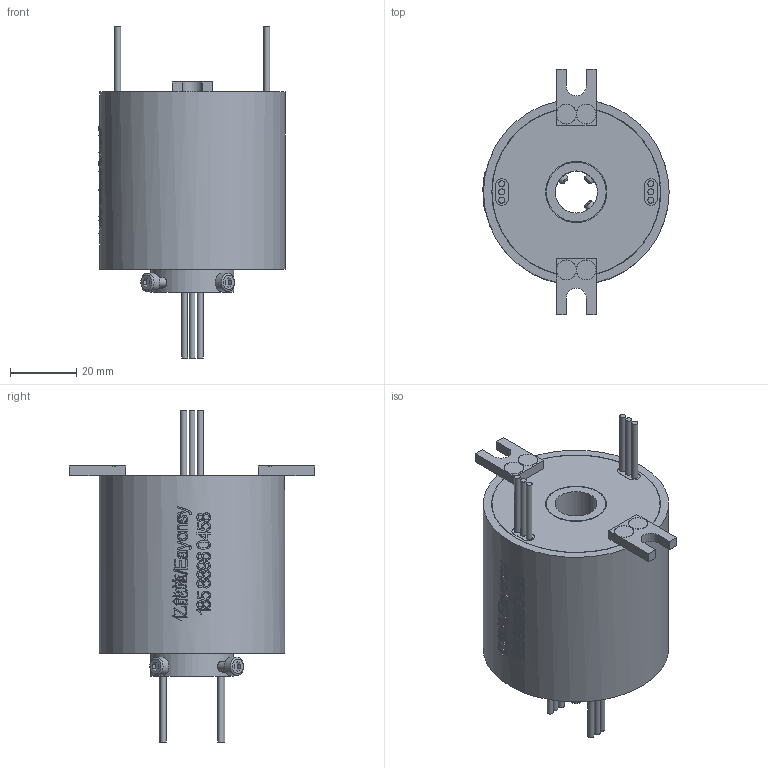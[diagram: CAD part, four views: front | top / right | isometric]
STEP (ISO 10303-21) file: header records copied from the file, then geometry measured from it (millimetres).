
FILE_DESCRIPTION(/* description */ (''),/* implementation_level */ '2;1');
FILE_NAME(/* name */ 'YDF1256-0610-3D模型.stp',/* time_stamp */ '2025-09-11T17:03:41+08:00',/* author */ (''),/* organization */ (''),/* preprocessor_version */ 'ST-DEVELOPER v16.7',/* originating_system */ 'SIEMENS PLM Software NX 12.0',/* authorisation */ '');
FILE_SCHEMA (('AUTOMOTIVE_DESIGN { 1 0 10303 214 3 1 1 1 }'));
Length unit declared in the file: millimetre
Products named in the file (1): Admi3178C071efsv
Bounding box: 56.2 x 74 x 100.2 mm (x, y, z)
Volume: 129346.9 mm3; surface area: 20995.2 mm2
Topology: 1 solids, 1 shells, 914 faces, 2460 edges, 1632 vertices
Faces by surface type: extrusion 479, plane 320, cylinder 70, bspline 33, cone 8, torus 4
Full cylindrical faces by diameter (mm): 1.8 x12, 2.6 x1, 3 x7, 5.5 x4, 5.9 x4, 12.7 x1, 18 x1, 18.5 x1, 25 x1, 50.8 x2, 51 x2, 56 x1
Entity records: 36868 total; most frequent: CARTESIAN_POINT 17615, ORIENTED_EDGE 4796, EDGE_CURVE 2398, B_SPLINE_CURVE_WITH_KNOTS 2301, DIRECTION 2135, VERTEX_POINT 1619, EDGE_LOOP 1053, ADVANCED_FACE 914
